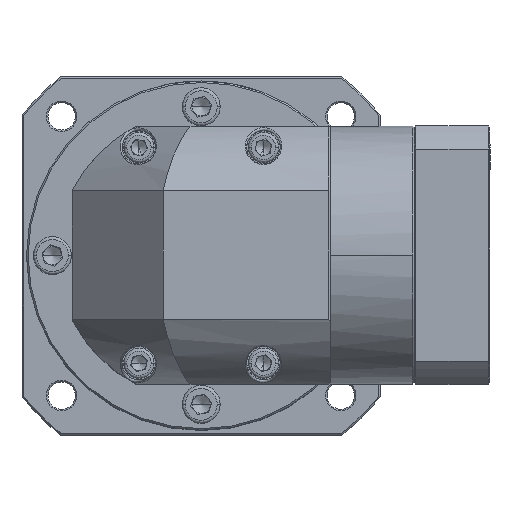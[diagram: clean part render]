
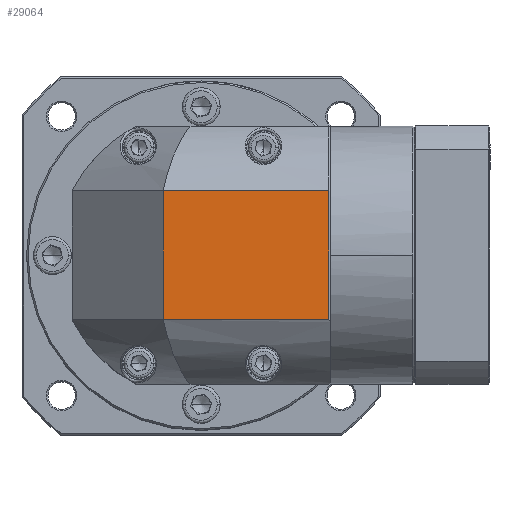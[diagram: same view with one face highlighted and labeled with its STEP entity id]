
A CAD part, top view. The second image highlights one B-rep face of the part: STEP entity #29064.
In plain terms, the highlighted planar face has unit normal (0, 0, 1).
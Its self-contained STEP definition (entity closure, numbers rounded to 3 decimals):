
#4703 = CARTESIAN_POINT ( 'NONE',  ( 18.226, 98.18, 48.763 ) ) ;
#6214 = EDGE_LOOP ( 'NONE', ( #130281, #101371, #26822, #95118 ) ) ;
#6810 = EDGE_CURVE ( 'NONE', #59149, #100967, #113619, .T. ) ;
#10405 = DIRECTION ( 'NONE',  ( 0., 0., 1. ) ) ;
#14168 = CARTESIAN_POINT ( 'NONE',  ( -27.274, 119.393, 48.763 ) ) ;
#19930 = CARTESIAN_POINT ( 'NONE',  ( 18.226, 119.393, 48.763 ) ) ;
#21013 = CARTESIAN_POINT ( 'NONE',  ( 72.726, 98.18, 48.763 ) ) ;
#24500 = VECTOR ( 'NONE', #37289, 1000. ) ;
#26822 = ORIENTED_EDGE ( 'NONE', *, *, #6810, .F. ) ;
#29064 = ADVANCED_FACE ( 'NONE', ( #77686 ), #96693, .T. ) ;
#30075 = DIRECTION ( 'NONE',  ( -1., 0., 0. ) ) ;
#30363 = VECTOR ( 'NONE', #30075, 1000. ) ;
#32862 = VERTEX_POINT ( 'NONE', #63601 ) ;
#37289 = DIRECTION ( 'NONE',  ( 0., 1., 0. ) ) ;
#37357 = EDGE_CURVE ( 'NONE', #100967, #137171, #61762, .T. ) ;
#43963 = LINE ( 'NONE', #14168, #137339 ) ;
#54852 = CARTESIAN_POINT ( 'NONE',  ( 30.726, 98.18, 48.763 ) ) ;
#59149 = VERTEX_POINT ( 'NONE', #68913 ) ;
#61762 = LINE ( 'NONE', #4703, #24500 ) ;
#63601 = CARTESIAN_POINT ( 'NONE',  ( 72.726, 119.393, 48.763 ) ) ;
#64590 = CARTESIAN_POINT ( 'NONE',  ( 18.226, 76.967, 48.763 ) ) ;
#68913 = CARTESIAN_POINT ( 'NONE',  ( 72.726, 76.967, 48.763 ) ) ;
#77686 = FACE_OUTER_BOUND ( 'NONE', #6214, .T. ) ;
#89941 = DIRECTION ( 'NONE',  ( 1., 0., 0. ) ) ;
#91722 = AXIS2_PLACEMENT_3D ( 'NONE', #54852, #10405, #107591 ) ;
#95118 = ORIENTED_EDGE ( 'NONE', *, *, #121160, .T. ) ;
#96693 = PLANE ( 'NONE',  #91722 ) ;
#100967 = VERTEX_POINT ( 'NONE', #64590 ) ;
#101371 = ORIENTED_EDGE ( 'NONE', *, *, #37357, .F. ) ;
#104559 = EDGE_CURVE ( 'NONE', #137171, #32862, #43963, .T. ) ;
#107591 = DIRECTION ( 'NONE',  ( 1., 0., 0. ) ) ;
#113619 = LINE ( 'NONE', #138684, #30363 ) ;
#114263 = VECTOR ( 'NONE', #139089, 1000. ) ;
#121160 = EDGE_CURVE ( 'NONE', #59149, #32862, #139633, .T. ) ;
#130281 = ORIENTED_EDGE ( 'NONE', *, *, #104559, .F. ) ;
#137171 = VERTEX_POINT ( 'NONE', #19930 ) ;
#137339 = VECTOR ( 'NONE', #89941, 1000. ) ;
#138684 = CARTESIAN_POINT ( 'NONE',  ( -27.274, 76.967, 48.763 ) ) ;
#139089 = DIRECTION ( 'NONE',  ( 0., 1., 0. ) ) ;
#139633 = LINE ( 'NONE', #21013, #114263 ) ;
